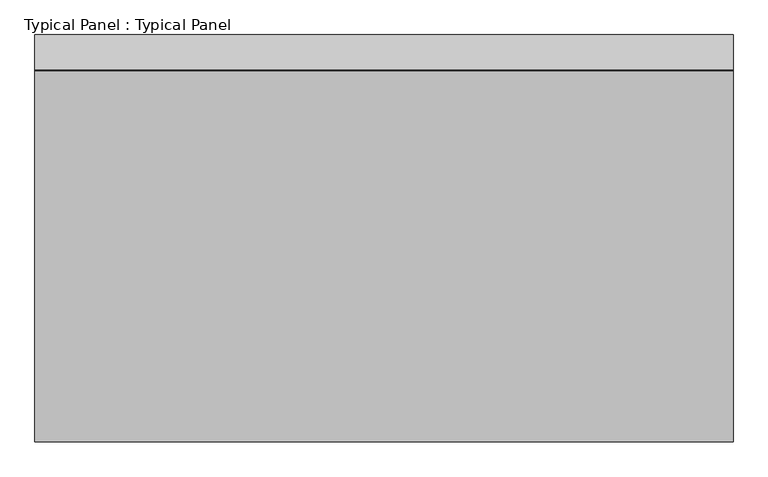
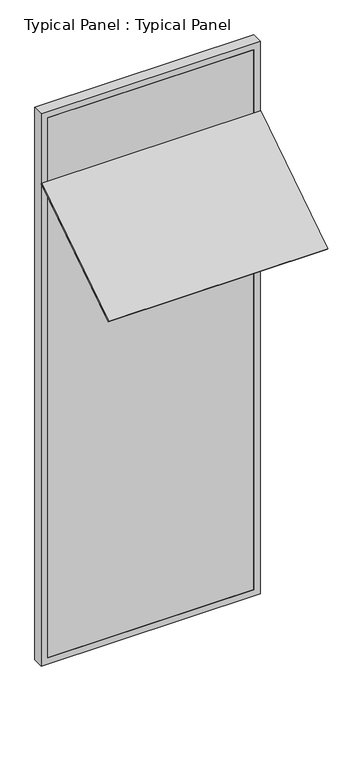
"""IFC4 building model written with IfcOpenShell, lengths in millimetres: plate geometry, Typical Panel : Typical Panel."""

from ifc_helpers import new_model, si_unit, frame, origin, place, context, project, spatial, polyline, outline, extrude, source, transform, mapped, element, save


def typical_panel_typical_panel_1149305a(model_context):
    return source(origin(), model_context, "Body", "SweptSolid", [
        extrude(outline(polyline([(0.0, -950.0), (0.0, 0.0), (1500.0, 0.0), (1500.0, -950.0), (0.0, -950.0)])), frame((750.0, -796.2906492, 2974.2062111), z_axis=(0.0, -0.5446390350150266, 0.8386705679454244), x_axis=(-1.0, 0.0, 0.0)), (0.0, 0.0, 1.0), 10.0),
        extrude(outline(polyline([(0.0, -750.0), (0.0, 750.0), (4000.0, 750.0), (4000.0, -750.0), (0.0, -750.0)]), holes=[polyline([(45.0, 705.0), (45.0, -705.0), (3955.0, -705.0), (3955.0, 705.0), (45.0, 705.0)])]), frame((0.0, -1.5797986, 0.0), z_axis=(0.0, 1.0, 0.0), x_axis=(0.0, 0.0, 1.0)), (0.0, 0.0, 1.0), 75.0),
        extrude(outline(polyline([(705.0, -1.5797986), (-705.0, -1.5797986), (-705.0, 13.4202014), (705.0, 13.4202014), (705.0, -1.5797986)])), frame((0.0, 0.0, 45.0), z_axis=(0.0, 0.0, 1.0), x_axis=(1.0, 0.0, 0.0)), (0.0, 0.0, 1.0), 3910.0),
    ])


if __name__ == "__main__":
    model = new_model("IFC4")
    model_context = context("Model", 3, world=origin())
    ifc_project = project(units=[si_unit("LENGTHUNIT", "METRE", prefix="MILLI")], contexts=[model_context])
    site = spatial("IfcSite", under=ifc_project)
    building = spatial("IfcBuilding", under=site)
    placement = place(None, origin())
    typical_panel_typical_panel_shape = typical_panel_typical_panel_1149305a(model_context)
    element("IfcPlate", 1, ObjectType="Typical Panel : Typical Panel", at=placement, inside=building, context=model_context, shape_type="MappedRepresentation", body=[
        mapped(typical_panel_typical_panel_shape, transform((0.0, 0.0, 0.0), x_axis=(1.0, 0.0, 0.0), y_axis=(0.0, 1.0, 0.0), z_axis=(0.0, 0.0, 1.0))),
    ])
    save(model, "model.ifc")
